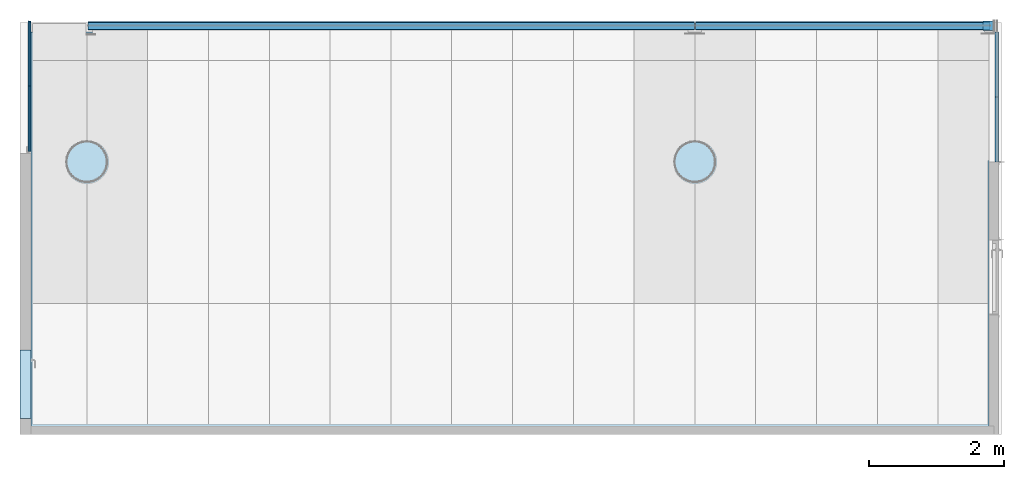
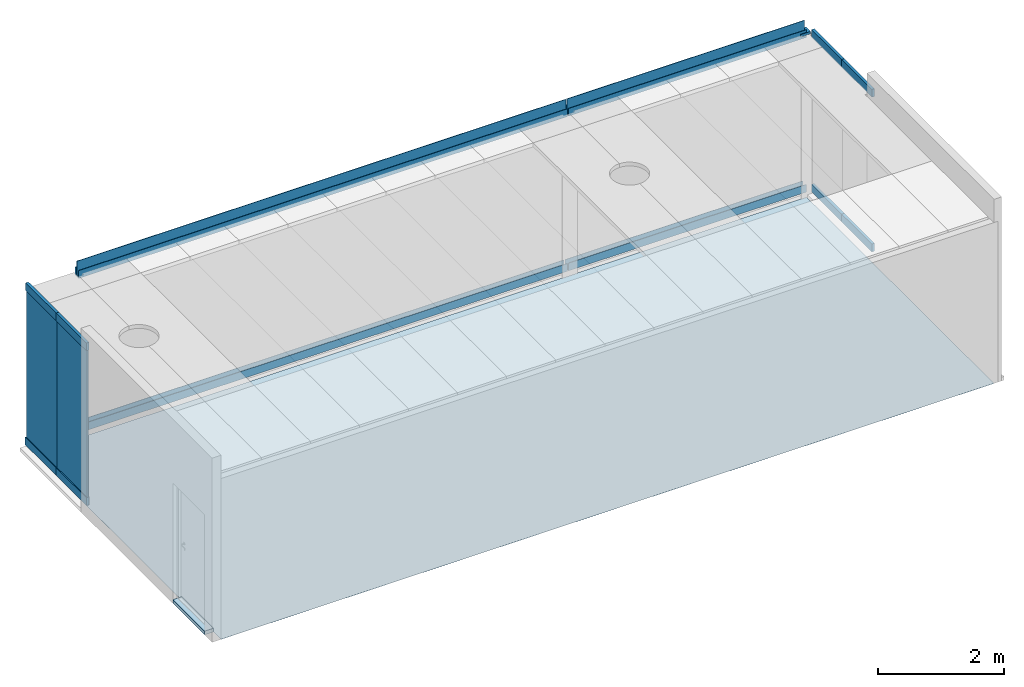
# One storey, part 1 of 12: 13 members, 2 plates, 2 slabs, 5 elements without a shape of their own.
"""IFC2X3 building model written with IfcOpenShell, lengths in millimetres."""

from ifc_helpers import new_model, entity, si_unit, converted_unit, derived_unit, direction, frame, frame_2d, origin, origin_with_axes, origin_2d_with_axis, place, context, subcontext, project, spatial, polyline, rectangle, outline, extrude, source, transform, mapped, material, layer, layer_set, layer_usage, type_object, element, aggregate, save


model = new_model("IFC2X3")

# Units and contexts
model_context = context("Model", 3, precision=0.01, world=frame((0.0, 4.29681676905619e-09, 0.0)), true_north=direction((6.12323399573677e-17, 1.0)))
plan_context = context("Plan", 3, precision=0.01, world=frame((0.0, 4.29681676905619e-09, 0.0)), true_north=direction((6.12323399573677e-17, 1.0)))
body_context = subcontext(model_context, "Body", "Model", "MODEL_VIEW")
ifc_project = project(units=[converted_unit("PLANEANGLEUNIT", "DEGREE", entity("IfcPositiveLengthMeasure", 0.0174532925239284), si_unit("PLANEANGLEUNIT", "RADIAN"), dimensions=[0, 0, 0, 0, 0, 0, 0]), si_unit("AREAUNIT", "SQUARE_METRE"), si_unit("LENGTHUNIT", "METRE", prefix="MILLI"), si_unit("MASSUNIT", "GRAM", prefix="KILO"), si_unit("POWERUNIT", "WATT"), si_unit("PRESSUREUNIT", "PASCAL", prefix="KILO"), si_unit("FORCEUNIT", "NEWTON", prefix="KILO"), si_unit("ELECTRICVOLTAGEUNIT", "VOLT"), si_unit("ELECTRICCURRENTUNIT", "AMPERE"), si_unit("THERMODYNAMICTEMPERATUREUNIT", "DEGREE_CELSIUS"), si_unit("TIMEUNIT", "SECOND"), si_unit("VOLUMEUNIT", "CUBIC_METRE"), derived_unit("LINEARVELOCITYUNIT", [(si_unit("LENGTHUNIT", "METRE"), 1), (si_unit("TIMEUNIT", "SECOND"), -1)]), derived_unit("VOLUMETRICFLOWRATEUNIT", [(si_unit("VOLUMEUNIT", "CUBIC_METRE"), 1), (si_unit("TIMEUNIT", "SECOND"), -1)]), derived_unit("THERMALTRANSMITTANCEUNIT", [(si_unit("POWERUNIT", "WATT"), 1), (si_unit("THERMODYNAMICTEMPERATUREUNIT", "KELVIN"), -1), (si_unit("AREAUNIT", "SQUARE_METRE"), -1)]), derived_unit("SOUNDPRESSUREUNIT", [(si_unit("PRESSUREUNIT", "PASCAL"), 1)])], contexts=[model_context, plan_context])

# Site, building, storey
site_placement = place(None, origin_with_axes())
site = spatial("IfcSite", under=ifc_project, at=site_placement, Name="ENGM", CompositionType="ELEMENT")
building_placement = place(site_placement, origin_with_axes())
building = spatial("IfcBuilding", under=site, at=building_placement, Name="TH", CompositionType="ELEMENT")
storey_placement = place(building_placement, frame((0.0, 0.0, 210200.0), z_axis=(0.0, 0.0, 1.0), x_axis=(1.0, 0.0, 0.0)))
storey = spatial("IfcBuildingStorey", under=building, at=storey_placement, Name="Nivå F - 0,7 m", CompositionType="ELEMENT", Elevation=210200.0)

# Curtain wall, members
curtain_wall_type_1 = type_object("IfcCurtainWallType", PredefinedType="NOTDEFINED")
curtain_wall_1_placement = place(storey_placement, frame((0.0, 0.0, -210200.0), z_axis=(0.0, 0.0, 1.0), x_axis=(1.0, 0.0, 0.0)))
curtain_wall_1 = element("IfcCurtainWall", 1, at=curtain_wall_1_placement, inside=storey, type_object=curtain_wall_type_1)
ifc_material_1 = material(Name="Metal - Stainless Steel(Dark)")
member_type_1 = type_object("IfcMemberType", Name="Rectangular Mullion:A240 - Metallforheng, bunnkasse BxH 120x150mm", PredefinedType="MULLION", material=ifc_material_1)
shared_shape_1 = source(origin(), body_context, "Body", "SweptSolid", [
    extrude(outline(polyline([(-60.0, -77.0), (60.0, -77.0), (60.0, 73.0), (52.0, 73.0), (52.0, -69.0), (-52.0, -69.0), (-52.0, 73.0), (-60.0, 73.0), (-60.0, -77.0)])), frame((-77.0, 0.0, -8970.0), z_axis=(0.0, 0.0, 1.0), x_axis=(0.0, 1.0, 0.0)), (0.0, 0.0, 1.0), 8970.00000000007),
])
member_1_placement = place(curtain_wall_1_placement, frame((1117020.0, 468414.499999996, 210200.0), z_axis=(-1.0, 0.0, 0.0), x_axis=(0.0, 0.0, -1.0)))
member_1 = element("IfcMember", 2, at=member_1_placement, type_object=member_type_1, material=ifc_material_1, Name="Rectangular Mullion:A240 - Metallforheng, bunnkasse BxH 120x150mm", ObjectType="Rectangular Mullion:A240 - Metallforheng, bunnkasse BxH 120x150mm", context=body_context, shape_type="MappedRepresentation", body=[
    mapped(shared_shape_1, transform((0.0, 0.0, 0.0), scale=1.0)),
])
member_type_2 = type_object("IfcMemberType", Name="Rectangular Mullion:A240 - Metallforheng, bunnkasse topp BxH 120x150mm", PredefinedType="MULLION", material=ifc_material_1)
shared_shape_2 = source(origin(), body_context, "Body", "SweptSolid", [
    extrude(outline(polyline([(-117.846153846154, -60.0), (32.1538461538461, -60.0), (32.1538461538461, -52.0), (-109.846153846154, -52.0), (-109.846153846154, -5.0), (182.153846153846, -5.0), (182.153846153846, 0.0), (182.153846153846, 5.0), (-109.846153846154, 5.0), (-109.846153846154, 52.0), (32.1538461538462, 52.0), (32.1538461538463, 60.0), (-117.846153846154, 60.0), (-117.846153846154, -60.0)])), frame((-182.153846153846, 0.0, -8970.0)), (0.0, 0.0, 1.0), 8970.00000000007),
])
member_2_placement = place(curtain_wall_1_placement, frame((1125990.0, 468414.499999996, 213500.0), z_axis=(1.0, 0.0, 0.0), x_axis=(0.0, 0.0, 1.0)))
member_2 = element("IfcMember", 3, at=member_2_placement, type_object=member_type_2, material=ifc_material_1, Name="Rectangular Mullion:A240 - Metallforheng, bunnkasse topp BxH 120x150mm", ObjectType="Rectangular Mullion:A240 - Metallforheng, bunnkasse topp BxH 120x150mm", context=body_context, shape_type="MappedRepresentation", body=[
    mapped(shared_shape_2, transform((0.0, 0.0, 0.0), scale=1.0)),
])
aggregate(curtain_wall_1, [member_1, member_2])

curtain_wall_2_placement = place(storey_placement, frame((0.0, 0.0, -210200.0), z_axis=(0.0, 0.0, 1.0), x_axis=(1.0, 0.0, 0.0)))
curtain_wall_2 = element("IfcCurtainWall", 4, at=curtain_wall_2_placement, inside=storey, type_object=curtain_wall_type_1)
member_type_3 = type_object("IfcMemberType", Name="Rectangular Mullion:A240 - Metallforheng, bunnkasse BxH 120x150mm", PredefinedType="MULLION", material=ifc_material_1)
shared_shape_3 = source(origin(), body_context, "Body", "SweptSolid", [
    extrude(outline(polyline([(-60.0, -77.0), (60.0, -77.0), (60.0, 73.0), (52.0, 73.0), (52.0, -69.0), (-52.0, -69.0), (-52.0, 73.0), (-60.0, 73.0), (-60.0, -77.0)])), frame((-77.0, 0.0, -4360.0), z_axis=(0.0, 0.0, 1.0), x_axis=(0.0, 1.0, 0.0)), (0.0, 0.0, 1.0), 4359.99999999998),
])
member_3_placement = place(curtain_wall_2_placement, frame((1126010.0, 468414.499999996, 210200.0), z_axis=(-1.0, 0.0, 0.0), x_axis=(0.0, 0.0, -1.0)))
member_3 = element("IfcMember", 5, at=member_3_placement, type_object=member_type_3, material=ifc_material_1, Name="Rectangular Mullion:A240 - Metallforheng, bunnkasse BxH 120x150mm", ObjectType="Rectangular Mullion:A240 - Metallforheng, bunnkasse BxH 120x150mm", context=body_context, shape_type="MappedRepresentation", body=[
    mapped(shared_shape_3, transform((0.0, 0.0, 0.0), scale=1.0)),
])
member_type_4 = type_object("IfcMemberType", Name="Rectangular Mullion:A240 - Metallforheng, bunnkasse topp BxH 120x150mm", PredefinedType="MULLION", material=ifc_material_1)
shared_shape_4 = source(origin(), body_context, "Body", "SweptSolid", [
    extrude(outline(polyline([(-117.846153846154, -60.0), (32.1538461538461, -60.0), (32.1538461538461, -52.0), (-109.846153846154, -52.0), (-109.846153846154, -5.0), (182.153846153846, -5.0), (182.153846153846, 0.0), (182.153846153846, 5.0), (-109.846153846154, 5.0), (-109.846153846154, 52.0), (32.1538461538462, 52.0), (32.1538461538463, 60.0), (-117.846153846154, 60.0), (-117.846153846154, -60.0)])), frame((-182.153846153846, 0.0, -4360.0)), (0.0, 0.0, 1.0), 4359.99999999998),
])
member_4_placement = place(curtain_wall_2_placement, frame((1130370.0, 468414.499999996, 213500.0), z_axis=(1.0, 0.0, 0.0), x_axis=(0.0, 0.0, 1.0)))
member_4 = element("IfcMember", 6, at=member_4_placement, type_object=member_type_4, material=ifc_material_1, Name="Rectangular Mullion:A240 - Metallforheng, bunnkasse topp BxH 120x150mm", ObjectType="Rectangular Mullion:A240 - Metallforheng, bunnkasse topp BxH 120x150mm", context=body_context, shape_type="MappedRepresentation", body=[
    mapped(shared_shape_4, transform((0.0, 0.0, 0.0), scale=1.0)),
])
aggregate(curtain_wall_2, [member_3, member_4])

curtain_wall_type_2 = type_object("IfcCurtainWallType", PredefinedType="NOTDEFINED")
curtain_wall_3_placement = place(storey_placement, frame((0.0, 0.0, -210200.0), z_axis=(0.0, 0.0, 1.0), x_axis=(1.0, 0.0, 0.0)))
curtain_wall_3 = element("IfcCurtainWall", 7, at=curtain_wall_3_placement, inside=storey, type_object=curtain_wall_type_2)
ifc_material_2 = material(Name="Aluminium")
member_type_5 = type_object("IfcMemberType", Name="Rectangular Mullion:A240 - innspenningsprofil glassvegg", PredefinedType="MULLION", material=ifc_material_2)
shared_shape_5 = source(origin(), body_context, "Body", "SweptSolid", [
    extrude(rectangle(XDim=150.0, YDim=50.0, at=origin_2d_with_axis()), frame((-75.0, 10.0, -965.0), z_axis=(0.0, 0.0, 1.0), x_axis=(-1.0, 0.0, 0.0)), (0.0, 0.0, 1.0), 965.000000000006),
])
member_5_placement = place(curtain_wall_3_placement, frame((1116140.0, 466554.999999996, 210200.0), z_axis=(0.0, -1.0, 0.0), x_axis=(0.0, 0.0, -1.0)))
member_5 = element("IfcMember", 8, at=member_5_placement, type_object=member_type_5, material=ifc_material_2, Name="Rectangular Mullion:A240 - innspenningsprofil glassvegg", ObjectType="Rectangular Mullion:A240 - innspenningsprofil glassvegg", context=body_context, shape_type="MappedRepresentation", body=[
    mapped(shared_shape_5, transform((0.0, 0.0, 0.0), scale=1.0)),
])
member_type_6 = type_object("IfcMemberType", Name="Rectangular Mullion:A240 - innspenningsprofil glassvegg", PredefinedType="MULLION", material=ifc_material_2)
member_6_placement = place(curtain_wall_3_placement, frame((1116140.0, 468484.999999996, 213350.0), z_axis=(0.0, 1.0, 0.0), x_axis=(0.0, 0.0, 1.0)))
member_6 = element("IfcMember", 9, at=member_6_placement, type_object=member_type_6, material=ifc_material_2, Name="Rectangular Mullion:A240 - innspenningsprofil glassvegg", ObjectType="Rectangular Mullion:A240 - innspenningsprofil glassvegg", context=body_context, shape_type="MappedRepresentation", body=[
    mapped(shared_shape_5, transform((0.0, 0.0, 0.0), scale=1.0)),
])
member_type_7 = type_object("IfcMemberType", Name="Rectangular Mullion:A240 - innspenningsprofil glassvegg", PredefinedType="MULLION", material=ifc_material_2)
member_7_placement = place(curtain_wall_3_placement, frame((1116140.0, 467519.999999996, 213350.0), z_axis=(0.0, 1.0, 0.0), x_axis=(0.0, 0.0, 1.0)))
member_7 = element("IfcMember", 10, at=member_7_placement, type_object=member_type_7, material=ifc_material_2, Name="Rectangular Mullion:A240 - innspenningsprofil glassvegg", ObjectType="Rectangular Mullion:A240 - innspenningsprofil glassvegg", context=body_context, shape_type="MappedRepresentation", body=[
    mapped(shared_shape_5, transform((0.0, 0.0, 0.0), scale=1.0)),
])
member_type_8 = type_object("IfcMemberType", Name="Rectangular Mullion:A240 - innspenningsprofil glassvegg", PredefinedType="MULLION", material=ifc_material_2)
shared_shape_6 = source(origin(), body_context, "Body", "SweptSolid", [
    extrude(outline(polyline([(-477.500000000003, -25.0), (502.500000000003, -25.0), (452.500000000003, 25.0), (-477.500000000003, 25.0), (-477.500000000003, -25.0)])), frame((-150.0, 10.0, -477.500000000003), z_axis=(1.0, 0.0, 0.0), x_axis=(0.0, 0.0, -1.0)), (0.0, 0.0, 1.0), 150.0),
])
member_8_placement = place(curtain_wall_3_placement, frame((1116140.0, 467519.999999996, 210200.0), z_axis=(0.0, -1.0, 0.0), x_axis=(0.0, 0.0, -1.0)))
member_8 = element("IfcMember", 11, at=member_8_placement, type_object=member_type_8, material=ifc_material_2, Name="Rectangular Mullion:A240 - innspenningsprofil glassvegg", ObjectType="Rectangular Mullion:A240 - innspenningsprofil glassvegg", context=body_context, shape_type="MappedRepresentation", body=[
    mapped(shared_shape_6, transform((0.0, 0.0, 0.0), scale=1.0)),
])

curtain_wall_4_placement = place(storey_placement, frame((0.0, 0.0, -210200.0), z_axis=(0.0, 0.0, 1.0), x_axis=(1.0, 0.0, 0.0)))
curtain_wall_4 = element("IfcCurtainWall", 12, at=curtain_wall_4_placement, inside=storey, type_object=curtain_wall_type_2)
member_type_9 = type_object("IfcMemberType", Name="Rectangular Mullion:A240 - innspenningsprofil glassvegg", PredefinedType="MULLION", material=ifc_material_2)
shared_shape_7 = source(origin(), body_context, "Body", "SweptSolid", [
    extrude(rectangle(XDim=150.0, YDim=50.0, at=origin_2d_with_axis()), frame((-75.0, 10.0, -959.500000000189), z_axis=(0.0, 0.0, 1.0), x_axis=(-1.0, 0.0, 0.0)), (0.0, 0.0, 1.0), 959.500000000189),
])
member_9_placement = place(curtain_wall_4_placement, frame((1130459.79984169, 468318.999999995, 213350.0), z_axis=(0.0, 1.0, 0.0), x_axis=(0.0, 0.0, 1.0)))
member_9 = element("IfcMember", 13, at=member_9_placement, type_object=member_type_9, material=ifc_material_2, Name="Rectangular Mullion:A240 - innspenningsprofil glassvegg", ObjectType="Rectangular Mullion:A240 - innspenningsprofil glassvegg", context=body_context, shape_type="MappedRepresentation", body=[
    mapped(shared_shape_7, transform((0.0, 0.0, 0.0), scale=1.0)),
])
member_type_10 = type_object("IfcMemberType", Name="Rectangular Mullion:A240 - innspenningsprofil glassvegg", PredefinedType="MULLION", material=ifc_material_2)
member_10_placement = place(curtain_wall_4_placement, frame((1130459.79984169, 467359.499999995, 210200.0), z_axis=(0.0, -1.0, 0.0), x_axis=(0.0, 0.0, -1.0)))
member_10 = element("IfcMember", 14, at=member_10_placement, type_object=member_type_10, material=ifc_material_2, Name="Rectangular Mullion:A240 - innspenningsprofil glassvegg", ObjectType="Rectangular Mullion:A240 - innspenningsprofil glassvegg", context=body_context, shape_type="MappedRepresentation", body=[
    mapped(shared_shape_7, transform((0.0, 0.0, 0.0), scale=1.0)),
])
member_type_11 = type_object("IfcMemberType", Name="Rectangular Mullion:A240 - innspenningsprofil glassvegg", PredefinedType="MULLION", material=ifc_material_2)
shared_shape_8 = source(origin(), body_context, "Body", "SweptSolid", [
    extrude(rectangle(XDim=150.0, YDim=50.0, at=origin_2d_with_axis()), frame((-75.0, 10.0, -959.500000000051), z_axis=(0.0, 0.0, 1.0), x_axis=(-1.0, 0.0, 0.0)), (0.0, 0.0, 1.0), 959.500000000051),
])
member_11_placement = place(curtain_wall_4_placement, frame((1130459.79984169, 467359.499999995, 213350.0), z_axis=(0.0, 1.0, 0.0), x_axis=(0.0, 0.0, 1.0)))
member_11 = element("IfcMember", 15, at=member_11_placement, type_object=member_type_11, material=ifc_material_2, Name="Rectangular Mullion:A240 - innspenningsprofil glassvegg", ObjectType="Rectangular Mullion:A240 - innspenningsprofil glassvegg", context=body_context, shape_type="MappedRepresentation", body=[
    mapped(shared_shape_8, transform((0.0, 0.0, 0.0), scale=1.0)),
])
member_type_12 = type_object("IfcMemberType", Name="Rectangular Mullion:A240 - innspenningsprofil glassvegg", PredefinedType="MULLION", material=ifc_material_2)
member_12_placement = place(curtain_wall_4_placement, frame((1130459.79984169, 466399.999999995, 210200.0), z_axis=(0.0, -1.0, 0.0), x_axis=(0.0, 0.0, -1.0)))
member_12 = element("IfcMember", 16, at=member_12_placement, type_object=member_type_12, material=ifc_material_2, Name="Rectangular Mullion:A240 - innspenningsprofil glassvegg", ObjectType="Rectangular Mullion:A240 - innspenningsprofil glassvegg", context=body_context, shape_type="MappedRepresentation", body=[
    mapped(shared_shape_8, transform((0.0, 0.0, 0.0), scale=1.0)),
])
aggregate(curtain_wall_4, [member_9, member_10, member_11, member_12])

# Curtain wall, member
curtain_wall_type_3 = type_object("IfcCurtainWallType", Name="Curtain Wall:A245 - SF-04", PredefinedType="NOTDEFINED")
curtain_wall_5_placement = place(storey_placement, frame((0.0, 0.0, -210200.0), z_axis=(0.0, 0.0, 1.0), x_axis=(1.0, 0.0, 0.0)))
curtain_wall_5 = element("IfcCurtainWall", 17, at=curtain_wall_5_placement, inside=storey, type_object=curtain_wall_type_3, Name="Curtain Wall:A245 - SF-04", ObjectType="Curtain Wall:A245 - SF-04")
member_type_13 = type_object("IfcMemberType", Name="Rectangular Mullion:A242 - Sprosse - 20(post)+164.5(dekkprofil) x 50 mm_hvit", PredefinedType="MULLION", material=ifc_material_2)
shared_shape_9 = source(origin(), body_context, "Body", "SweptSolid", [
    extrude(rectangle(XDim=184.499999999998, YDim=50.0, at=frame_2d((-7.105427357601e-15, 0.0), x_axis=(1.0, 0.0))), frame((-25.0, 72.2499999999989, -142.0), z_axis=(0.0, 0.0, 1.0), x_axis=(0.0, 1.0, 0.0)), (0.0, 0.0, 1.0), 141.999999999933),
])
member_13_placement = place(curtain_wall_5_placement, frame((1130424.79984185, 468343.499999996, 213300.0), z_axis=(0.0, -1.0, 0.0), x_axis=(0.0, 0.0, 1.0)))
member_13 = element("IfcMember", 18, at=member_13_placement, type_object=member_type_13, material=ifc_material_2, Name="Rectangular Mullion:A242 - Sprosse - 20(post)+164.5(dekkprofil) x 50 mm_hvit", ObjectType="Rectangular Mullion:A242 - Sprosse - 20(post)+164.5(dekkprofil) x 50 mm_hvit", context=body_context, shape_type="MappedRepresentation", body=[
    mapped(shared_shape_9, transform((0.0, 0.0, 0.0), scale=1.0)),
])
aggregate(curtain_wall_5, [member_13])

# Plate
ifc_material_3 = material(Name="Glass")
plate_type = type_object("IfcPlateType", Name="System Panel:A245 - PA-G06", PredefinedType="CURTAIN_PANEL", material=ifc_material_3)
shared_shape_10 = source(origin(), body_context, "Body", "SweptSolid", [
    extrude(rectangle(XDim=20.0, YDim=965.000000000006, at=origin_2d_with_axis()), frame((0.0, -10.0, 0.0), z_axis=(0.0, 0.0, 1.0), x_axis=(0.0, 1.0, 0.0)), (0.0, 0.0, 1.0), 2850.00000000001),
])
plate_1_placement = place(curtain_wall_3_placement, frame((1116140.0, 467037.499999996, 210350.0), z_axis=(0.0, 0.0, 1.0), x_axis=(0.0, 1.0, 0.0)))
plate_1 = element("IfcPlate", 19, at=plate_1_placement, type_object=plate_type, material=ifc_material_3, Name="System Panel:A245 - PA-G06", ObjectType="System Panel:A245 - PA-G06", context=body_context, shape_type="MappedRepresentation", body=[
    mapped(shared_shape_10, transform((0.0, 0.0, 0.0), scale=1.0)),
])

plate_2_placement = place(curtain_wall_3_placement, frame((1116140.0, 468002.499999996, 210350.0), z_axis=(0.0, 0.0, 1.0), x_axis=(0.0, 1.0, 0.0)))
plate_2 = element("IfcPlate", 20, at=plate_2_placement, type_object=plate_type, material=ifc_material_3, Name="System Panel:A245 - PA-G06", ObjectType="System Panel:A245 - PA-G06", context=body_context, shape_type="MappedRepresentation", body=[
    mapped(shared_shape_10, transform((0.0, 0.0, 0.0), scale=1.0)),
])

aggregate(curtain_wall_3, [member_5, member_6, member_8, member_7, plate_1, plate_2])

# Slabs
ifc_material_4 = material(Name="192_192_192")
ifc_layer_1 = layer(ifc_material_4, 2.0)
ifc_material_5 = material(Name="_NSW - Avretting")
ifc_layer_2 = layer(ifc_material_5, 68.0)
ifc_layer_set_1 = layer_set([ifc_layer_1, ifc_layer_2], Name="Floor:A254 - GU-M02 - Industrimaling 70MM")
ifc_layer_usage_1 = layer_usage(ifc_layer_set_1, "AXIS3", "POSITIVE", 0.0)
slab_type_1 = type_object("IfcSlabType", Name="Floor:A254 - GU-M02 - Industrimaling 70MM", PredefinedType="FLOOR", material=ifc_layer_set_1)
slab_1_placement = place(storey_placement, origin_with_axes())
element("IfcSlab", 21, at=slab_1_placement, inside=storey, type_object=slab_type_1, material=ifc_layer_usage_1, Name="Floor:A254 - GU-M02 - Industrimaling 70MM", ObjectType="Floor:A254 - GU-M02 - Industrimaling 70MM", PredefinedType="FLOOR", context=body_context, shape_type="SweptSolid", body=[
    extrude(rectangle(XDim=1010.00000000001, YDim=165.000000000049, at=frame_2d((3.46744855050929e-11, 6.93063384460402e-11), x_axis=(1.0, 0.0))), frame((1116092.5, 463107.499999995, 0.0), z_axis=(0.0, 0.0, -1.0), x_axis=(0.0, 1.0, 0.0)), (0.0, 0.0, 1.0), 69.9999999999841),
])
ifc_material_6 = material(Name="Støvbinding")
ifc_layer_3 = layer(ifc_material_6, 1.0)
ifc_layer_set_2 = layer_set([ifc_layer_3], Name="Floor:A254 - GU-M03 - Støvbinding uten averetting")
ifc_layer_usage_2 = layer_usage(ifc_layer_set_2, "AXIS3", "POSITIVE", 0.0)
slab_type_2 = type_object("IfcSlabType", Name="Floor:A254 - GU-M03 - Støvbinding uten averetting", PredefinedType="FLOOR", material=ifc_layer_set_2)
slab_2_placement = place(storey_placement, origin_with_axes())
element("IfcSlab", 22, at=slab_2_placement, inside=storey, type_object=slab_type_2, material=ifc_layer_usage_2, Name="Floor:A254 - GU-M03 - Støvbinding uten averetting", ObjectType="Floor:A254 - GU-M03 - Støvbinding uten averetting", PredefinedType="FLOOR", context=body_context, shape_type="SweptSolid", body=[
    extrude(rectangle(XDim=5957.50476109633, YDim=14179.7998418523, at=frame_2d((-6.93489710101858e-11, 0.0), x_axis=(1.0, 0.0))), frame((1123264.89992093, 465341.247706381, -69.0), z_axis=(0.0, 0.0, -1.0), x_axis=(0.0, 1.0, 0.0)), (0.0, 0.0, 1.0), 1.0000000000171),
])

save(model, "model.ifc")
